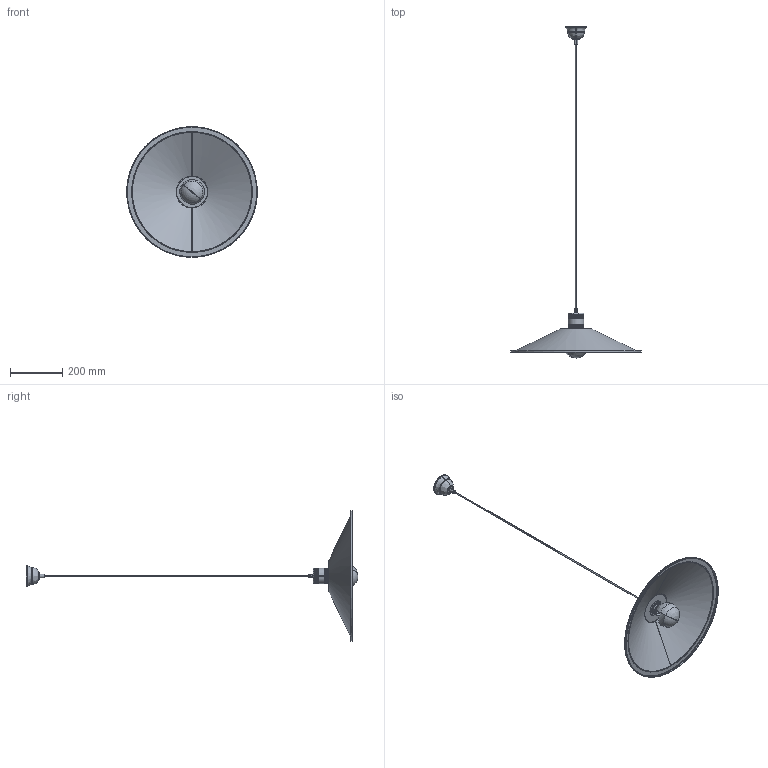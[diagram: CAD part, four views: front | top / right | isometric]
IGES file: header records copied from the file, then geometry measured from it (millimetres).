
Start section: SolidWorks IGES file using analytic representation for surfaces
Global section: file name: E:\3D lampy\Garret\Garret M_zwis\Garret M zwis part.IGS; native system: SolidWorks 2016; preprocessor: SolidWorks 2016; author: Asia; date: 160922.134712; units: millimetre
Bounding box: 500 x 1271.3 x 500 mm (x, y, z)
Surface area: 585035.4 mm2 (no closed solid volume)
Topology: 0 solids, 0 shells, 694 faces, 7072 edges, 7071 vertices
Faces by surface type: bspline 368, revolution 326
